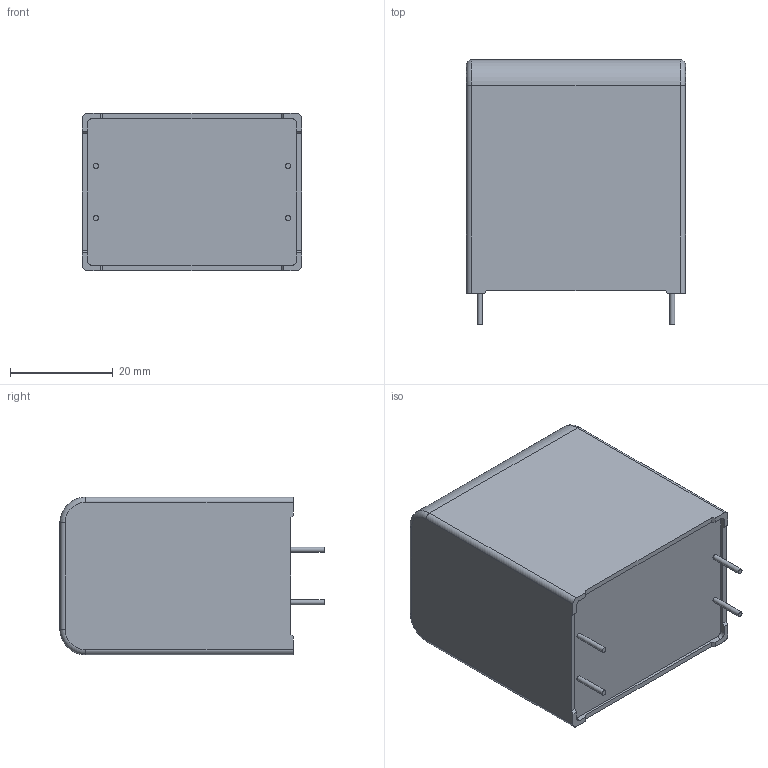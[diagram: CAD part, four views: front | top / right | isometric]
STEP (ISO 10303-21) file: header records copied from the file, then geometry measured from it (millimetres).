
FILE_DESCRIPTION (( 'STEP AP203' ), '1' );
FILE_NAME ('MKP1847H62025+P4.step', '2018-01-17T10:52:24', ( 'work' ), ( 'Hewlett-Packard Company' ), 'SwSTEP 2.0', 'SolidWorks 2017', '' );
FILE_SCHEMA (( 'CONFIG_CONTROL_DESIGN' ));
Length unit declared in the file: millimetre
Products named in the file (1): MKP1847H62025+P4
Bounding box: 42.7 x 51.5 x 30.7 mm (x, y, z)
Volume: 57933.5 mm3; surface area: 9104.4 mm2
Topology: 1 solids, 1 shells, 118 faces, 311 edges, 206 vertices
Faces by surface type: plane 82, cylinder 16, bspline 16, torus 4
Full cylindrical faces by diameter (mm): 1 x4
Entity records: 4332 total; most frequent: CARTESIAN_POINT 1448, ORIENTED_EDGE 606, DIRECTION 513, EDGE_CURVE 303, VECTOR 235, LINE 235, VERTEX_POINT 202, AXIS2_PLACEMENT_3D 139
